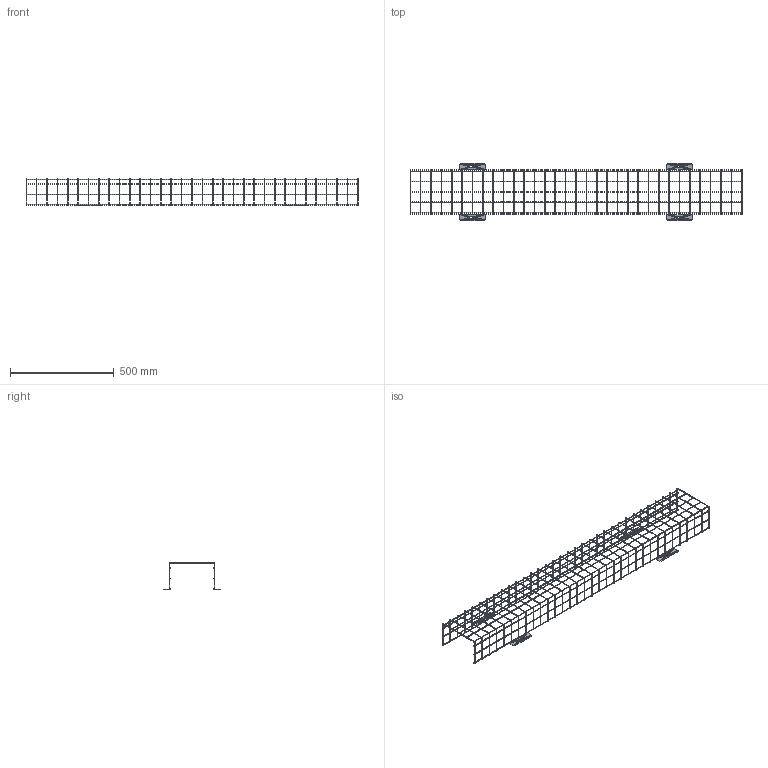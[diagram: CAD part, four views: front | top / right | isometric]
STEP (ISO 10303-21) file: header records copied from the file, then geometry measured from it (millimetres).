
FILE_DESCRIPTION((''),'2;1');
FILE_NAME('020043', '2025-07-25T08:12:49', (''), (''), 'ImageToStl.com STEP Converter','', '');
FILE_SCHEMA(('AUTOMOTIVE_DESIGN_CC2'));
Length unit declared in the file: metre
Products named in the file (1): product0
Bounding box: 1603 x 279 x 130.5 mm (x, y, z)
Surface area: 340051.4 mm2 (no closed solid volume)
Topology: 0 solids, 10448 shells, 10448 faces, 31344 edges, 5312 vertices
Faces by surface type: plane 10448
Entity records: 240508 total; most frequent: DIRECTION 52242, ORIENTED_EDGE 31344, EDGE_CURVE 31344, LINE 31344, VECTOR 31344, AXIS2_PLACEMENT_3D 10449, FACE_SURFACE 10448, PLANE 10448
